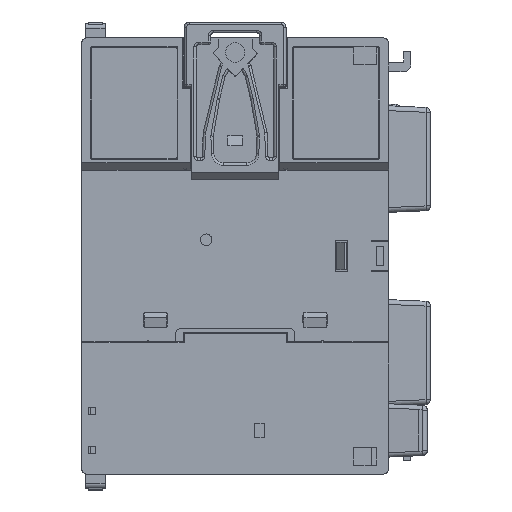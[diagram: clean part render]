
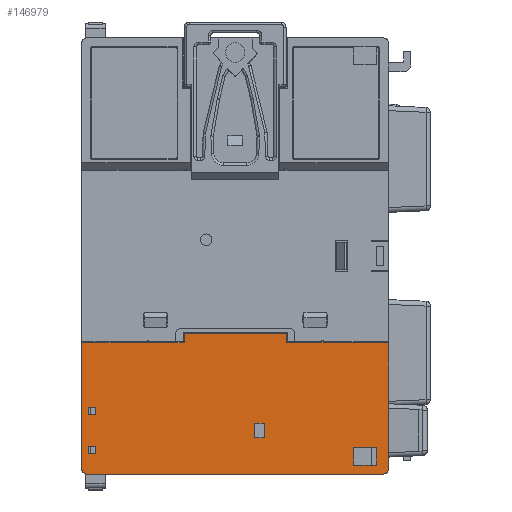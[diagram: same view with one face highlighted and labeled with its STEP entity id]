
A CAD part, front view. The second image highlights one B-rep face of the part: STEP entity #146979.
In plain terms, the highlighted planar face has unit normal (0, -1, 0).
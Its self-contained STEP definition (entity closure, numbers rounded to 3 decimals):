
#45340=DIRECTION('',(0.,0.,-1.));
#45341=VECTOR('',#45340,26.05);
#45342=CARTESIAN_POINT('',(31.65,0.,-17.95));
#45343=LINE('',#45342,#45341);
#45347=DIRECTION('',(-1.,0.,0.));
#45348=VECTOR('',#45347,61.3);
#45349=CARTESIAN_POINT('',(30.65,0.,-45.));
#45350=LINE('',#45349,#45348);
#45354=DIRECTION('',(0.,0.,1.));
#45355=VECTOR('',#45354,26.05);
#45356=CARTESIAN_POINT('',(-31.65,0.,-44.));
#45357=LINE('',#45356,#45355);
#45403=DIRECTION('',(0.,0.,1.));
#45404=VECTOR('',#45403,1.5);
#45405=CARTESIAN_POINT('',(-30.35,0.,-40.75));
#45406=LINE('',#45405,#45404);
#45410=DIRECTION('',(-1.,0.,0.));
#45411=VECTOR('',#45410,1.5);
#45412=CARTESIAN_POINT('',(-28.85,0.,-40.75));
#45413=LINE('',#45412,#45411);
#45417=DIRECTION('',(0.,0.,-1.));
#45418=VECTOR('',#45417,1.5);
#45419=CARTESIAN_POINT('',(-28.85,0.,-39.25));
#45420=LINE('',#45419,#45418);
#45424=DIRECTION('',(1.,0.,0.));
#45425=VECTOR('',#45424,1.5);
#45426=CARTESIAN_POINT('',(-30.35,0.,-39.25));
#45427=LINE('',#45426,#45425);
#45431=DIRECTION('',(0.,0.,1.));
#45432=VECTOR('',#45431,1.5);
#45433=CARTESIAN_POINT('',(-30.35,0.,-32.75));
#45434=LINE('',#45433,#45432);
#45438=DIRECTION('',(-1.,0.,0.));
#45439=VECTOR('',#45438,1.5);
#45440=CARTESIAN_POINT('',(-28.85,0.,-32.75));
#45441=LINE('',#45440,#45439);
#45445=DIRECTION('',(0.,0.,-1.));
#45446=VECTOR('',#45445,1.5);
#45447=CARTESIAN_POINT('',(-28.85,0.,-31.25));
#45448=LINE('',#45447,#45446);
#45452=DIRECTION('',(1.,0.,0.));
#45453=VECTOR('',#45452,1.5);
#45454=CARTESIAN_POINT('',(-30.35,0.,-31.25));
#45455=LINE('',#45454,#45453);
#45459=DIRECTION('',(0.,0.,1.));
#45460=VECTOR('',#45459,3.7);
#45461=CARTESIAN_POINT('',(29.1,0.,-43.2));
#45462=LINE('',#45461,#45460);
#45466=DIRECTION('',(-1.,0.,0.));
#45467=VECTOR('',#45466,4.6);
#45468=CARTESIAN_POINT('',(29.1,0.,-39.5));
#45469=LINE('',#45468,#45467);
#45473=DIRECTION('',(0.,0.,-1.));
#45474=VECTOR('',#45473,3.7);
#45475=CARTESIAN_POINT('',(24.5,0.,-39.5));
#45476=LINE('',#45475,#45474);
#45480=DIRECTION('',(1.,0.,0.));
#45481=VECTOR('',#45480,4.6);
#45482=CARTESIAN_POINT('',(24.5,0.,-43.2));
#45483=LINE('',#45482,#45481);
#45494=DIRECTION('',(0.,0.,1.));
#45495=VECTOR('',#45494,3.);
#45496=CARTESIAN_POINT('',(4.,0.,-37.5));
#45497=LINE('',#45496,#45495);
#45501=DIRECTION('',(-1.,0.,0.));
#45502=VECTOR('',#45501,2.);
#45503=CARTESIAN_POINT('',(6.,0.,-37.5));
#45504=LINE('',#45503,#45502);
#45508=DIRECTION('',(0.,0.,-1.));
#45509=VECTOR('',#45508,3.);
#45510=CARTESIAN_POINT('',(6.,0.,-34.5));
#45511=LINE('',#45510,#45509);
#45515=DIRECTION('',(1.,0.,0.));
#45516=VECTOR('',#45515,2.);
#45517=CARTESIAN_POINT('',(4.,0.,-34.5));
#45518=LINE('',#45517,#45516);
#45522=DIRECTION('',(-1.,0.,0.));
#45523=VECTOR('',#45522,7.3);
#45524=CARTESIAN_POINT('',(17.85,0.,-17.95));
#45525=LINE('',#45524,#45523);
#45547=DIRECTION('',(0.,0.,1.));
#45548=VECTOR('',#45547,1.95);
#45549=CARTESIAN_POINT('',(10.55,0.,-17.95));
#45550=LINE('',#45549,#45548);
#45579=DIRECTION('',(-1.,0.,0.));
#45580=VECTOR('',#45579,21.1);
#45581=CARTESIAN_POINT('',(10.55,0.,-16.));
#45582=LINE('',#45581,#45580);
#45609=DIRECTION('',(0.,0.,-1.));
#45610=VECTOR('',#45609,1.95);
#45611=CARTESIAN_POINT('',(-10.55,0.,-16.));
#45612=LINE('',#45611,#45610);
#45648=DIRECTION('',(-1.,0.,0.));
#45649=VECTOR('',#45648,7.3);
#45650=CARTESIAN_POINT('',(-10.55,0.,-17.95));
#45651=LINE('',#45650,#45649);
#45747=DIRECTION('',(-1.,0.,0.));
#45748=VECTOR('',#45747,13.5);
#45749=CARTESIAN_POINT('',(-18.15,0.,-17.95));
#45750=LINE('',#45749,#45748);
#45762=CARTESIAN_POINT('',(-18.,0.,-17.75));
#45763=DIRECTION('',(0.,-1.,0.));
#45764=DIRECTION('',(0.6,0.,-0.8));
#45765=AXIS2_PLACEMENT_3D('',#45762,#45763,#45764);
#45785=DIRECTION('',(-1.,0.,0.));
#45786=VECTOR('',#45785,13.5);
#45787=CARTESIAN_POINT('',(31.65,0.,-17.95));
#45788=LINE('',#45787,#45786);
#47057=CARTESIAN_POINT('',(30.65,0.,-44.));
#47058=DIRECTION('',(0.,-1.,0.));
#47059=DIRECTION('',(0.,0.,-1.));
#47060=AXIS2_PLACEMENT_3D('',#47057,#47058,#47059);
#52438=CARTESIAN_POINT('',(18.,0.,-17.75));
#52439=DIRECTION('',(0.,-1.,0.));
#52440=DIRECTION('',(0.6,0.,-0.8));
#52441=AXIS2_PLACEMENT_3D('',#52438,#52439,#52440);
#52803=CARTESIAN_POINT('',(-30.65,0.,-44.));
#52804=DIRECTION('',(0.,-1.,0.));
#52805=DIRECTION('',(-1.,0.,0.));
#52806=AXIS2_PLACEMENT_3D('',#52803,#52804,#52805);
#91790=CARTESIAN_POINT('',(30.65,0.,-45.));
#91791=CARTESIAN_POINT('',(31.65,0.,-44.));
#91792=VERTEX_POINT('',#91790);
#91793=VERTEX_POINT('',#91791);
#91794=CARTESIAN_POINT('',(-31.65,0.,-44.));
#91795=CARTESIAN_POINT('',(-30.65,0.,-45.));
#91796=VERTEX_POINT('',#91794);
#91797=VERTEX_POINT('',#91795);
#91922=CARTESIAN_POINT('',(17.85,0.,-17.95));
#91923=CARTESIAN_POINT('',(10.55,0.,-17.95));
#91924=VERTEX_POINT('',#91922);
#91925=VERTEX_POINT('',#91923);
#91930=CARTESIAN_POINT('',(10.55,0.,-16.));
#91931=VERTEX_POINT('',#91930);
#91944=CARTESIAN_POINT('',(-10.55,0.,-16.));
#91945=VERTEX_POINT('',#91944);
#91946=CARTESIAN_POINT('',(-10.55,0.,-17.95));
#91947=VERTEX_POINT('',#91946);
#91952=CARTESIAN_POINT('',(-17.85,0.,-17.95));
#91953=VERTEX_POINT('',#91952);
#91974=CARTESIAN_POINT('',(-18.15,0.,-17.95));
#91975=CARTESIAN_POINT('',(-31.65,0.,-17.95));
#91976=VERTEX_POINT('',#91974);
#91977=VERTEX_POINT('',#91975);
#91982=CARTESIAN_POINT('',(31.65,0.,-17.95));
#91983=VERTEX_POINT('',#91982);
#91984=CARTESIAN_POINT('',(18.15,0.,-17.95));
#91985=VERTEX_POINT('',#91984);
#92227=CARTESIAN_POINT('',(-30.35,0.,-40.75));
#92228=CARTESIAN_POINT('',(-30.35,0.,-39.25));
#92229=VERTEX_POINT('',#92227);
#92230=VERTEX_POINT('',#92228);
#92231=CARTESIAN_POINT('',(-28.85,0.,-39.25));
#92232=VERTEX_POINT('',#92231);
#92233=CARTESIAN_POINT('',(-28.85,0.,-40.75));
#92234=VERTEX_POINT('',#92233);
#92235=CARTESIAN_POINT('',(-30.35,0.,-32.75));
#92236=CARTESIAN_POINT('',(-30.35,0.,-31.25));
#92237=VERTEX_POINT('',#92235);
#92238=VERTEX_POINT('',#92236);
#92239=CARTESIAN_POINT('',(-28.85,0.,-31.25));
#92240=VERTEX_POINT('',#92239);
#92241=CARTESIAN_POINT('',(-28.85,0.,-32.75));
#92242=VERTEX_POINT('',#92241);
#92255=CARTESIAN_POINT('',(24.5,0.,-43.2));
#92256=CARTESIAN_POINT('',(29.1,0.,-43.2));
#92257=VERTEX_POINT('',#92255);
#92258=VERTEX_POINT('',#92256);
#92261=CARTESIAN_POINT('',(4.,0.,-37.5));
#92262=CARTESIAN_POINT('',(4.,0.,-34.5));
#92263=VERTEX_POINT('',#92261);
#92264=VERTEX_POINT('',#92262);
#92265=CARTESIAN_POINT('',(6.,0.,-34.5));
#92266=VERTEX_POINT('',#92265);
#92267=CARTESIAN_POINT('',(6.,0.,-37.5));
#92268=VERTEX_POINT('',#92267);
#93473=CARTESIAN_POINT('',(29.1,0.,-39.5));
#93474=VERTEX_POINT('',#93473);
#93475=CARTESIAN_POINT('',(24.5,0.,-39.5));
#93476=VERTEX_POINT('',#93475);
#146907=CARTESIAN_POINT('',(0.,0.,0.));
#146908=DIRECTION('',(0.,1.,0.));
#146909=DIRECTION('',(1.,0.,0.));
#146910=AXIS2_PLACEMENT_3D('',#146907,#146908,#146909);
#146911=PLANE('',#146910);
#146913=ORIENTED_EDGE('',*,*,#146912,.F.);
#146915=ORIENTED_EDGE('',*,*,#146914,.F.);
#146917=ORIENTED_EDGE('',*,*,#146916,.F.);
#146919=ORIENTED_EDGE('',*,*,#146918,.T.);
#146921=ORIENTED_EDGE('',*,*,#146920,.F.);
#146922=ORIENTED_EDGE('',*,*,#133263,.T.);
#146924=ORIENTED_EDGE('',*,*,#146923,.F.);
#146925=ORIENTED_EDGE('',*,*,#146128,.T.);
#146927=ORIENTED_EDGE('',*,*,#146926,.F.);
#146929=ORIENTED_EDGE('',*,*,#146928,.F.);
#146931=ORIENTED_EDGE('',*,*,#146930,.F.);
#146933=ORIENTED_EDGE('',*,*,#146932,.F.);
#146935=ORIENTED_EDGE('',*,*,#146934,.F.);
#146937=ORIENTED_EDGE('',*,*,#146936,.F.);
#146938=EDGE_LOOP('',(#146913,#146915,#146917,#146919,#146921,#146922,#146924,
#146925,#146927,#146929,#146931,#146933,#146935,#146937));
#146939=FACE_OUTER_BOUND('',#146938,.F.);
#146940=ORIENTED_EDGE('',*,*,#146896,.F.);
#146942=ORIENTED_EDGE('',*,*,#146941,.F.);
#146944=ORIENTED_EDGE('',*,*,#146943,.F.);
#146946=ORIENTED_EDGE('',*,*,#146945,.F.);
#146947=EDGE_LOOP('',(#146940,#146942,#146944,#146946));
#146948=FACE_BOUND('',#146947,.F.);
#146950=ORIENTED_EDGE('',*,*,#146949,.F.);
#146952=ORIENTED_EDGE('',*,*,#146951,.F.);
#146954=ORIENTED_EDGE('',*,*,#146953,.F.);
#146956=ORIENTED_EDGE('',*,*,#146955,.F.);
#146957=EDGE_LOOP('',(#146950,#146952,#146954,#146956));
#146958=FACE_BOUND('',#146957,.F.);
#146960=ORIENTED_EDGE('',*,*,#146959,.T.);
#146962=ORIENTED_EDGE('',*,*,#146961,.T.);
#146964=ORIENTED_EDGE('',*,*,#146963,.T.);
#146966=ORIENTED_EDGE('',*,*,#146965,.T.);
#146967=EDGE_LOOP('',(#146960,#146962,#146964,#146966));
#146968=FACE_BOUND('',#146967,.F.);
#146970=ORIENTED_EDGE('',*,*,#146969,.F.);
#146972=ORIENTED_EDGE('',*,*,#146971,.F.);
#146974=ORIENTED_EDGE('',*,*,#146973,.F.);
#146976=ORIENTED_EDGE('',*,*,#146975,.F.);
#146977=EDGE_LOOP('',(#146970,#146972,#146974,#146976));
#146978=FACE_BOUND('',#146977,.F.);
#146979=ADVANCED_FACE('',(#146939,#146948,#146958,#146968,#146978),#146911,.F.);
#45766=CIRCLE('',#45765,0.25);
#47061=CIRCLE('',#47060,1.);
#52442=CIRCLE('',#52441,0.25);
#52807=CIRCLE('',#52806,1.);
#133263=EDGE_CURVE('',#91792,#91797,#45350,.T.);
#146128=EDGE_CURVE('',#91796,#91977,#45357,.T.);
#146896=EDGE_CURVE('',#92229,#92230,#45406,.T.);
#146912=EDGE_CURVE('',#91924,#91925,#45525,.T.);
#146914=EDGE_CURVE('',#91985,#91924,#52442,.T.);
#146916=EDGE_CURVE('',#91983,#91985,#45788,.T.);
#146918=EDGE_CURVE('',#91983,#91793,#45343,.T.);
#146920=EDGE_CURVE('',#91792,#91793,#47061,.T.);
#146923=EDGE_CURVE('',#91796,#91797,#52807,.T.);
#146926=EDGE_CURVE('',#91976,#91977,#45750,.T.);
#146928=EDGE_CURVE('',#91953,#91976,#45766,.T.);
#146930=EDGE_CURVE('',#91947,#91953,#45651,.T.);
#146932=EDGE_CURVE('',#91945,#91947,#45612,.T.);
#146934=EDGE_CURVE('',#91931,#91945,#45582,.T.);
#146936=EDGE_CURVE('',#91925,#91931,#45550,.T.);
#146941=EDGE_CURVE('',#92234,#92229,#45413,.T.);
#146943=EDGE_CURVE('',#92232,#92234,#45420,.T.);
#146945=EDGE_CURVE('',#92230,#92232,#45427,.T.);
#146949=EDGE_CURVE('',#92237,#92238,#45434,.T.);
#146951=EDGE_CURVE('',#92242,#92237,#45441,.T.);
#146953=EDGE_CURVE('',#92240,#92242,#45448,.T.);
#146955=EDGE_CURVE('',#92238,#92240,#45455,.T.);
#146959=EDGE_CURVE('',#92258,#93474,#45462,.T.);
#146961=EDGE_CURVE('',#93474,#93476,#45469,.T.);
#146963=EDGE_CURVE('',#93476,#92257,#45476,.T.);
#146965=EDGE_CURVE('',#92257,#92258,#45483,.T.);
#146969=EDGE_CURVE('',#92263,#92264,#45497,.T.);
#146971=EDGE_CURVE('',#92268,#92263,#45504,.T.);
#146973=EDGE_CURVE('',#92266,#92268,#45511,.T.);
#146975=EDGE_CURVE('',#92264,#92266,#45518,.T.);
